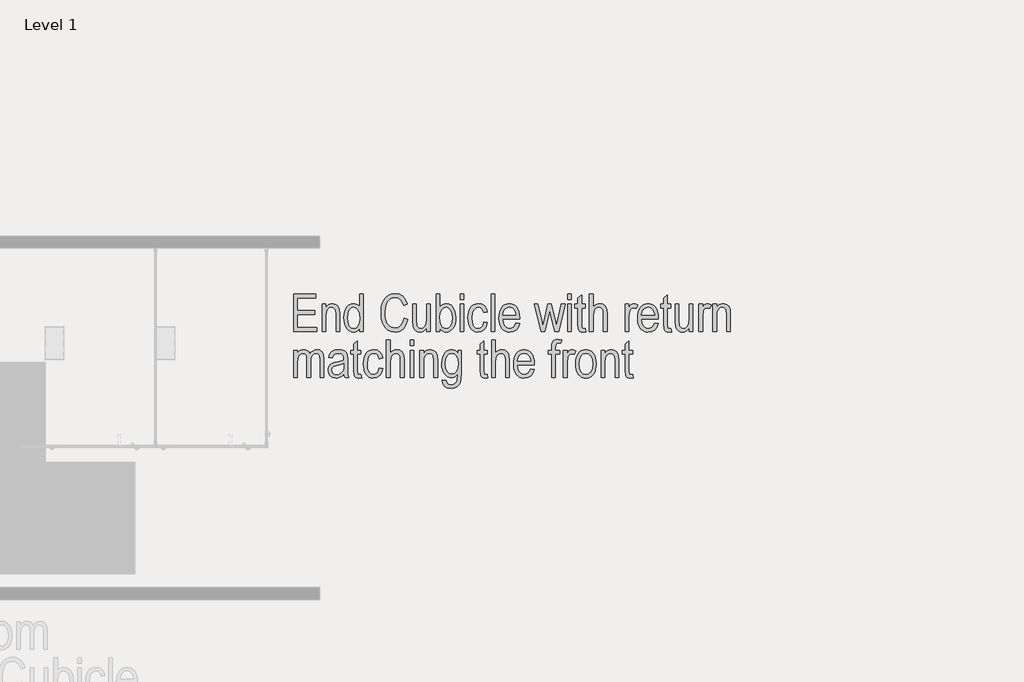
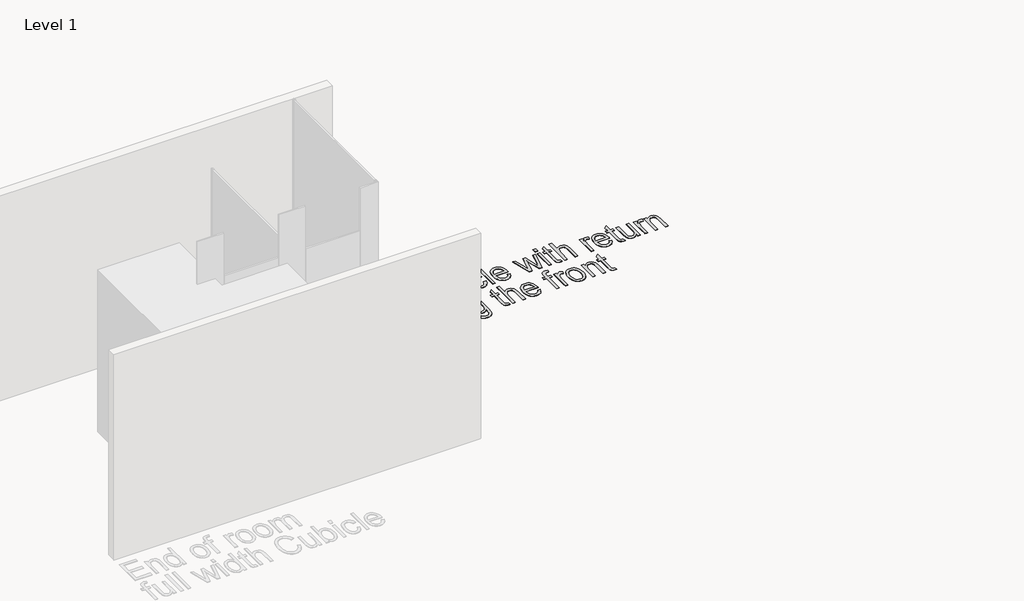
# One storey, part 17 of 21: 1 proxy.
"""IFC4 building model written with IfcOpenShell, lengths in millimetres."""

from ifc_helpers import new_model, si_unit, origin, origin_with_axes, place, context, project, spatial, polyline, outline, extrude, element, save

model = new_model("IFC4")

# Units and contexts
model_context = context("Model", 3, world=origin())
ifc_project = project(units=[si_unit("LENGTHUNIT", "METRE", prefix="MILLI")], contexts=[model_context])

# Site, building, storey
site = spatial("IfcSite", under=ifc_project)
building = spatial("IfcBuilding", under=site)
storey = spatial("IfcBuildingStorey", under=building, Name="Level 1", Elevation=0.0)

# Proxy
placement = place(None, origin())
element("IfcBuildingElementProxy", 1, Name="Arial Narrow-300mm", ObjectType="Arial Narrow-300mm", at=placement, inside=storey, context=model_context, shape_type="SweptSolid", body=[
    extrude(outline(polyline([(-10477.2012144, 24246.353021), (-10477.2012144, 24551.5303904), (-10295.0792359, 24551.5303904), (-10295.0792359, 24517.0748809), (-10447.6679206, 24517.0748809), (-10447.6679206, 24418.6305682), (-10304.9236672, 24418.6305682), (-10304.9236672, 24384.1750588), (-10447.6679206, 24384.1750588), (-10447.6679206, 24280.8085304), (-10290.1570203, 24280.8085304), (-10290.1570203, 24246.353021), (-10477.2012144, 24246.353021)])), origin_with_axes(), (0.0, 0.0, 1.0), 5.0),
    extrude(outline(polyline([(-10245.8570795, 24246.353021), (-10245.8570795, 24467.8527246), (-10216.3237857, 24467.8527246), (-10216.3237857, 24439.2423462), (-10205.8063953, 24453.9609246), (-10193.1739903, 24464.4302465), (-10178.484253, 24470.6887668), (-10161.7948656, 24472.7749402), (-10136.2993269, 24467.0451736), (-10117.3795605, 24452.0477978), (-10106.6506686, 24427.975087), (-10103.1128261, 24382.4830471), (-10103.1128261, 24246.353021), (-10132.6461199, 24246.353021), (-10132.6461199, 24383.0983241), (-10136.6838749, 24419.3227548), (-10141.8656605, 24429.4748245), (-10149.3355073, 24437.0119672), (-10158.6415713, 24441.6842266), (-10169.3320083, 24443.2416464), (-10188.6170954, 24439.0596858), (-10203.5567889, 24426.5138042), (-10213.1320365, 24403.8158528), (-10216.3237857, 24369.177683), (-10216.3237857, 24246.353021), (-10245.8570795, 24246.353021)])), origin_with_axes(), (0.0, 0.0, 1.0), 5.0),
    extrude(outline(polyline([(-9940.6797102, 24246.353021), (-9940.6797102, 24273.1175685), (-9950.1684344, 24259.4949522), (-9962.0221295, 24249.5447702), (-9975.5870636, 24243.4592966), (-9990.209505, 24241.4308054), (-10005.5962357, 24243.3271082), (-10019.9158454, 24249.0160166), (-10033.1683342, 24258.4975306), (-10045.353702, 24271.7716502), (-10055.5490334, 24288.4826684), (-10062.831413, 24308.2748782), (-10067.2008408, 24331.1482797), (-10068.6573167, 24357.1028728), (-10066.0231622, 24391.9333166), (-10058.1206988, 24421.0532212), (-10045.8247735, 24443.933833), (-10030.010233, 24460.0463982), (-10011.465401, 24469.5928047), (-9990.9786012, 24472.7749402), (-9976.1542721, 24470.8521997), (-9962.4451324, 24465.0839783), (-9950.4280044, 24455.8740514), (-9940.6797102, 24443.6261945), (-9940.6797102, 24551.5303904), (-9911.1464164, 24551.5303904), (-9911.1464164, 24246.353021), (-9940.6797102, 24246.353021)]), holes=[polyline([(-10039.1240229, 24356.8721439), (-10035.3842926, 24318.878792), (-10024.1651019, 24292.1142445), (-10007.9660134, 24276.2516355), (-9989.2865896, 24270.9640992), (-9970.9051906, 24276.040134), (-9955.1387186, 24291.2682387), (-9944.2944623, 24316.7637775), (-9940.6797102, 24352.6421149), (-9944.2944623, 24393.4811227), (-9955.1387186, 24421.5531338), (-9971.4820127, 24437.8195182), (-9991.5938781, 24443.2416464), (-10009.6964798, 24438.0310197), (-10025.0880173, 24422.3991396), (-10035.6150215, 24395.5961372), (-10039.1240229, 24356.8721439)])]), origin_with_axes(), (0.0, 0.0, 1.0), 5.0),
    extrude(outline(polyline([(-9581.3579688, 24354.641765), (-9551.824675, 24344.7973337), (-9566.6490041, 24299.334135), (-9577.1039055, 24281.5559958), (-9589.5872981, 24267.0801634), (-9603.8203845, 24255.8585693), (-9619.5243674, 24247.8431449), (-9636.6992467, 24243.0338902), (-9655.3450226, 24241.4308054), (-9686.8779665, 24245.6608344), (-9713.4886948, 24258.3509216), (-9735.4463911, 24280.3951412), (-9753.0202391, 24312.6875676), (-9764.556682, 24353.478507), (-9768.4021629, 24401.0182654), (-9764.5662957, 24447.4428343), (-9753.0586939, 24486.1187592), (-9735.0041608, 24516.6614917), (-9711.5274995, 24538.6864839), (-9683.8111954, 24552.0110755), (-9653.037734, 24556.452606), (-9620.1588717, 24550.8285901), (-9592.2791348, 24533.9565424), (-9570.7059865, 24506.1825561), (-9556.7468906, 24467.8527246), (-9586.2801844, 24458.0082933), (-9596.8648708, 24486.0033947), (-9611.6988136, 24505.9998957), (-9630.7820129, 24517.9977963), (-9654.1144687, 24521.9970966), (-9677.7930177, 24518.8053474), (-9698.0683161, 24509.2300998), (-9714.7769309, 24492.8964194), (-9727.7554291, 24469.4293718), (-9736.0905091, 24438.8097296), (-9738.8688691, 24401.0182654), (-9737.4556549, 24371.7060867), (-9733.2160121, 24346.2970713), (-9726.1499408, 24324.791219), (-9716.2574411, 24307.1885299), (-9704.0240047, 24293.4938108), (-9689.9351239, 24283.7118686), (-9673.9907984, 24277.8427032), (-9656.1910284, 24275.8863148), (-9630.3397826, 24280.7700756), (-9608.3147904, 24295.4213581), (-9591.5196523, 24319.9939815), (-9581.3579688, 24354.641765)])), origin_with_axes(), (0.0, 0.0, 1.0), 5.0),
    extrude(outline(polyline([(-9399.2359903, 24246.353021), (-9399.2359903, 24276.2708629), (-9410.1956111, 24261.052372), (-9422.9241531, 24250.1600471), (-9437.4216163, 24243.6131158), (-9453.6880008, 24241.4308054), (-9472.5116301, 24244.3245298), (-9488.3742391, 24253.0057031), (-9500.3721397, 24266.1187932), (-9507.6016439, 24282.308268), (-9512.4469499, 24330.6459637), (-9512.4469499, 24467.8527246), (-9482.9136561, 24467.8527246), (-9482.9136561, 24343.2591413), (-9479.5680877, 24296.8441861), (-9474.7900776, 24286.2787271), (-9467.1471842, 24278.0397841), (-9457.4373447, 24272.7330204), (-9446.4584966, 24270.9640992), (-9426.8465436, 24275.5594489), (-9411.0800717, 24289.3454982), (-9402.1970107, 24311.803107), (-9399.2359903, 24347.4891704), (-9399.2359903, 24467.8527246), (-9369.7026965, 24467.8527246), (-9369.7026965, 24246.353021), (-9399.2359903, 24246.353021)])), origin_with_axes(), (0.0, 0.0, 1.0), 5.0),
    extrude(outline(polyline([(-9290.9472463, 24246.353021), (-9320.4805402, 24246.353021), (-9320.4805402, 24551.5303904), (-9290.9472463, 24551.5303904), (-9290.9472463, 24444.2414714), (-9280.3817874, 24456.7969668), (-9268.5280923, 24465.6992552), (-9255.3092515, 24471.006019), (-9240.6483553, 24472.7749402), (-9220.1615555, 24469.5928047), (-9201.6167235, 24460.0463982), (-9185.8021831, 24444.0395837), (-9173.5062577, 24421.4762241), (-9165.6037943, 24392.8850732), (-9162.9696398, 24358.7948844), (-9164.433326, 24332.2562589), (-9168.8243846, 24308.9382237), (-9176.1428156, 24288.8407788), (-9186.3886189, 24271.9639242), (-9198.5860038, 24258.6056847), (-9211.7591796, 24249.0640851), (-9225.9081461, 24243.3391253), (-9241.0329034, 24241.4308054), (-9255.9918244, 24243.4112281), (-9269.3356433, 24249.3524961), (-9281.0066781, 24259.1969274), (-9290.9472463, 24272.8868396), (-9290.9472463, 24246.353021)]), holes=[polyline([(-9290.9472463, 24358.7948844), (-9289.3705992, 24328.2713792), (-9284.6406576, 24306.5347981), (-9277.0266053, 24291.2490113), (-9266.7976259, 24280.0778891), (-9254.6266786, 24273.2425466), (-9241.1867227, 24270.9640992), (-9223.180258, 24276.3862273), (-9207.3080354, 24292.6526118), (-9196.2042091, 24319.7247978), (-9192.5029336, 24357.5643305), (-9196.0696172, 24395.9133894), (-9206.769668, 24422.514504), (-9222.6611181, 24438.0598608), (-9241.8019996, 24443.2416464), (-9259.914215, 24437.8195182), (-9275.9498706, 24421.5531338), (-9287.1979024, 24395.0193151), (-9290.9472463, 24358.7948844)])]), origin_with_axes(), (0.0, 0.0, 1.0), 5.0),
    extrude(outline(polyline([(-9128.5141304, 24246.353021), (-9128.5141304, 24467.8527246), (-9098.9808366, 24467.8527246), (-9098.9808366, 24246.353021), (-9128.5141304, 24246.353021)])), origin_with_axes(), (0.0, 0.0, 1.0), 5.0),
    extrude(outline(polyline([(-9128.5141304, 24507.2304496), (-9128.5141304, 24551.5303904), (-9098.9808366, 24551.5303904), (-9098.9808366, 24507.2304496), (-9128.5141304, 24507.2304496)])), origin_with_axes(), (0.0, 0.0, 1.0), 5.0),
    extrude(outline(polyline([(-8936.5477206, 24325.1084712), (-8907.0144268, 24320.1862555), (-8916.0993756, 24286.3556367), (-8933.0483329, 24261.6195804), (-8956.015468, 24246.4779991), (-8983.1549499, 24241.4308054), (-9000.1327484, 24243.2598122), (-9015.5338996, 24248.7468329), (-9029.3584037, 24257.8918673), (-9041.6062606, 24270.6949155), (-9051.6333522, 24287.0838747), (-9058.7955605, 24306.9866421), (-9063.0928855, 24330.4032178), (-9064.5253271, 24357.3336016), (-9063.0496238, 24384.3745431), (-9058.6225139, 24407.815153), (-9051.2439973, 24427.6554314), (-9040.914074, 24443.8953782), (-9028.2672485, 24456.5301866), (-9013.938025, 24465.5550497), (-8997.9264037, 24470.9699676), (-8980.2323844, 24472.7749402), (-8953.9389083, 24468.4680015), (-8932.1254175, 24455.5471855), (-8916.0609208, 24434.0124921), (-8907.0144268, 24403.8639213), (-8936.5477206, 24398.9417057), (-8942.8543094, 24418.3709983), (-8952.5449214, 24432.205116), (-8965.061962, 24440.4825138), (-8979.8478363, 24443.2416464), (-9001.6420997, 24438.1367704), (-9019.3409258, 24422.8221425), (-9031.0792564, 24396.3940745), (-9034.9920333, 24357.9488786), (-9031.3484401, 24318.3788795), (-9020.4176605, 24291.4989675), (-9003.795569, 24276.0978163), (-8983.0780403, 24270.9640992), (-8966.5328584, 24274.2615991), (-8952.5833762, 24284.1540989), (-8942.2486462, 24300.9876918), (-8936.5477206, 24325.1084712)])), origin_with_axes(), (0.0, 0.0, 1.0), 5.0),
    extrude(outline(polyline([(-8877.481133, 24246.353021), (-8877.481133, 24551.5303904), (-8847.9478392, 24551.5303904), (-8847.9478392, 24246.353021), (-8877.481133, 24246.353021)])), origin_with_axes(), (0.0, 0.0, 1.0), 5.0),
    extrude(outline(polyline([(-8675.670292, 24315.2640399), (-8646.1369982, 24310.3418242), (-8657.3465752, 24280.3855275), (-8674.9781054, 24258.8123793), (-8698.3201749, 24245.7761988), (-8726.6613696, 24241.4308054), (-8745.1533262, 24243.2598122), (-8761.7898382, 24248.7468329), (-8776.5709056, 24257.8918673), (-8789.4965285, 24270.6949155), (-8799.9946916, 24286.9540897), (-8807.4933794, 24306.4675022), (-8811.9925922, 24329.2351529), (-8813.4923297, 24355.2570419), (-8811.9853819, 24382.2066532), (-8807.4645383, 24405.7578207), (-8799.9297991, 24425.9105444), (-8789.3811641, 24442.6648242), (-8776.5252405, 24455.838), (-8762.0686355, 24465.2474112), (-8746.0113491, 24470.893058), (-8728.3533812, 24472.7749402), (-8711.4356684, 24470.9579504), (-8695.9840452, 24465.5069812), (-8681.9985116, 24456.4220324), (-8669.4790676, 24443.7031041), (-8659.1659684, 24427.5424704), (-8651.7994689, 24408.1324052), (-8647.3795692, 24385.4729086), (-8645.9062693, 24359.5639806), (-8646.1369982, 24349.7195493), (-8783.9590359, 24349.7195493), (-8778.4119296, 24315.4563139), (-8765.769911, 24290.8067809), (-8747.8019012, 24275.9247696), (-8726.2768215, 24270.9640992), (-8709.4720696, 24273.7328455), (-8695.4360641, 24282.0390843), (-8684.1688049, 24295.8828158), (-8675.670292, 24315.2640399)]), holes=[polyline([(-8781.9593858, 24379.2528431), (-8675.670292, 24379.2528431), (-8679.9772306, 24404.5176531), (-8688.591108, 24422.4760492), (-8706.2418656, 24438.0502471), (-8728.1226523, 24443.2416464), (-8748.2152904, 24438.9154803), (-8765.1161792, 24425.9369821), (-8776.979488, 24405.6136152), (-8781.9593858, 24379.2528431)])]), origin_with_axes(), (0.0, 0.0, 1.0), 5.0),
    extrude(outline(polyline([(-8471.5521624, 24246.353021), (-8528.0038229, 24467.8527246), (-8497.7783425, 24467.8527246), (-8467.7066814, 24338.7214738), (-8456.6316962, 24290.6529617), (-8446.6334457, 24336.7987333), (-8416.7156038, 24467.8527246), (-8388.0283158, 24467.8527246), (-8358.3412027, 24338.2600161), (-8348.3429522, 24295.5751773), (-8338.0370633, 24338.7214738), (-8307.1963059, 24467.8527246), (-8276.9708255, 24467.8527246), (-8329.8846436, 24246.353021), (-8362.8019607, 24246.353021), (-8394.8732719, 24380.483397), (-8402.4873242, 24418.6305682), (-8441.326682, 24246.353021), (-8471.5521624, 24246.353021)])), origin_with_axes(), (0.0, 0.0, 1.0), 5.0),
    extrude(outline(polyline([(-8257.281963, 24507.2304496), (-8257.281963, 24551.5303904), (-8227.7486692, 24551.5303904), (-8227.7486692, 24507.2304496), (-8257.281963, 24507.2304496)])), origin_with_axes(), (0.0, 0.0, 1.0), 5.0),
    extrude(outline(polyline([(-8257.281963, 24246.353021), (-8257.281963, 24467.8527246), (-8227.7486692, 24467.8527246), (-8227.7486692, 24246.353021), (-8257.281963, 24246.353021)])), origin_with_axes(), (0.0, 0.0, 1.0), 5.0),
    extrude(outline(polyline([(-8114.5377096, 24270.9640992), (-8109.6154939, 24241.4308054), (-8131.9192835, 24241.4308054), (-8145.9552891, 24243.0362937), (-8156.9918194, 24247.8527586), (-8165.0288746, 24255.4571972), (-8170.0664547, 24265.4266066), (-8173.6042972, 24309.8034569), (-8173.6042972, 24438.3194308), (-8198.2153754, 24438.3194308), (-8198.2153754, 24467.8527246), (-8173.6042972, 24467.8527246), (-8173.6042972, 24517.0748809), (-8144.0710034, 24541.6859591), (-8144.0710034, 24467.8527246), (-8114.5377096, 24467.8527246), (-8114.5377096, 24438.3194308), (-8144.0710034, 24438.3194308), (-8144.0710034, 24303.0354104), (-8141.4560763, 24278.8088803), (-8136.1108578, 24272.9252945), (-8127.4585256, 24270.9640992), (-8114.5377096, 24270.9640992)])), origin_with_axes(), (0.0, 0.0, 1.0), 5.0),
    extrude(outline(polyline([(-8080.0822001, 24246.353021), (-8080.0822001, 24551.5303904), (-8050.5489063, 24551.5303904), (-8050.5489063, 24445.1643869), (-8039.4066252, 24457.2680382), (-8026.8991984, 24465.8915293), (-8013.0266258, 24471.0540875), (-7997.7889075, 24472.7749402), (-7972.735599, 24468.160363), (-7953.5658764, 24454.3166316), (-7946.4661572, 24443.1647368), (-7941.3949291, 24428.167361), (-7937.3379467, 24386.6361666), (-7937.3379467, 24246.353021), (-7966.8712405, 24246.353021), (-7966.8712405, 24388.7127263), (-7969.341962, 24413.7468074), (-7976.7541266, 24430.5515592), (-7988.4924572, 24440.0691246), (-8003.941677, 24443.2416464), (-8021.8808457, 24439.1750503), (-8036.9359037, 24426.9752619), (-8047.1456557, 24404.4119024), (-8050.5489063, 24369.2545926), (-8050.5489063, 24246.353021), (-8080.0822001, 24246.353021)])), origin_with_axes(), (0.0, 0.0, 1.0), 5.0),
    extrude(outline(polyline([(-7789.6714777, 24246.353021), (-7789.6714777, 24467.8527246), (-7760.1381839, 24467.8527246), (-7760.1381839, 24438.47325), (-7750.2552978, 24455.7394595), (-7741.2184175, 24466.0068937), (-7732.0661728, 24471.0829286), (-7721.8371934, 24472.7749402), (-7706.6859984, 24470.3138324), (-7691.227165, 24462.9305089), (-7701.0715962, 24433.3972151), (-7723.9906628, 24438.3194308), (-7733.6332063, 24436.5601232), (-7742.4105166, 24431.2822006), (-7749.5150427, 24422.8509836), (-7754.1392335, 24411.6317929), (-7760.1381839, 24364.9476539), (-7760.1381839, 24246.353021), (-7789.6714777, 24246.353021)])), origin_with_axes(), (0.0, 0.0, 1.0), 5.0),
    extrude(outline(polyline([(-7553.4051272, 24315.2640399), (-7523.8718334, 24310.3418242), (-7535.0814104, 24280.3855275), (-7552.7129406, 24258.8123793), (-7576.0550101, 24245.7761988), (-7604.3962048, 24241.4308054), (-7622.8881614, 24243.2598122), (-7639.5246734, 24248.7468329), (-7654.3057409, 24257.8918673), (-7667.2313637, 24270.6949155), (-7677.7295268, 24286.9540897), (-7685.2282147, 24306.4675022), (-7689.7274274, 24329.2351529), (-7691.227165, 24355.2570419), (-7689.7202171, 24382.2066532), (-7685.1993736, 24405.7578207), (-7677.6646343, 24425.9105444), (-7667.1159993, 24442.6648242), (-7654.2600758, 24455.838), (-7639.8034708, 24465.2474112), (-7623.7461843, 24470.893058), (-7606.0882164, 24472.7749402), (-7589.1705036, 24470.9579504), (-7573.7188804, 24465.5069812), (-7559.7333468, 24456.4220324), (-7547.2139028, 24443.7031041), (-7536.9008036, 24427.5424704), (-7529.5343041, 24408.1324052), (-7525.1144044, 24385.4729086), (-7523.6411045, 24359.5639806), (-7523.8718334, 24349.7195493), (-7661.6938712, 24349.7195493), (-7656.1467649, 24315.4563139), (-7643.5047462, 24290.8067809), (-7625.5367364, 24275.9247696), (-7604.0116567, 24270.9640992), (-7587.2069049, 24273.7328455), (-7573.1708993, 24282.0390843), (-7561.9036401, 24295.8828158), (-7553.4051272, 24315.2640399)]), holes=[polyline([(-7659.6942211, 24379.2528431), (-7553.4051272, 24379.2528431), (-7557.7120659, 24404.5176531), (-7566.3259432, 24422.4760492), (-7583.9767009, 24438.0502471), (-7605.8574875, 24443.2416464), (-7625.9501256, 24438.9154803), (-7642.8510144, 24425.9369821), (-7654.7143232, 24405.6136152), (-7659.6942211, 24379.2528431)])]), origin_with_axes(), (0.0, 0.0, 1.0), 5.0),
    extrude(outline(polyline([(-7420.505305, 24270.9640992), (-7415.5830894, 24241.4308054), (-7437.886879, 24241.4308054), (-7451.9228845, 24243.0362937), (-7462.9594149, 24247.8527586), (-7470.9964701, 24255.4571972), (-7476.0340502, 24265.4266066), (-7479.5718927, 24309.8034569), (-7479.5718927, 24438.3194308), (-7504.1829708, 24438.3194308), (-7504.1829708, 24467.8527246), (-7479.5718927, 24467.8527246), (-7479.5718927, 24517.0748809), (-7450.0385988, 24541.6859591), (-7450.0385988, 24467.8527246), (-7420.505305, 24467.8527246), (-7420.505305, 24438.3194308), (-7450.0385988, 24438.3194308), (-7450.0385988, 24303.0354104), (-7447.4236718, 24278.8088803), (-7442.0784533, 24272.9252945), (-7433.4261211, 24270.9640992), (-7420.505305, 24270.9640992)])), origin_with_axes(), (0.0, 0.0, 1.0), 5.0),
    extrude(outline(polyline([(-7272.838836, 24246.353021), (-7272.838836, 24276.2708629), (-7283.7984567, 24261.052372), (-7296.5269987, 24250.1600471), (-7311.024462, 24243.6131158), (-7327.2908464, 24241.4308054), (-7346.1144758, 24244.3245298), (-7361.9770848, 24253.0057031), (-7373.9749854, 24266.1187932), (-7381.2044896, 24282.308268), (-7386.0497956, 24330.6459637), (-7386.0497956, 24467.8527246), (-7356.5165018, 24467.8527246), (-7356.5165018, 24343.2591413), (-7353.1709333, 24296.8441861), (-7348.3929232, 24286.2787271), (-7340.7500298, 24278.0397841), (-7331.0401904, 24272.7330204), (-7320.0613422, 24270.9640992), (-7300.4493893, 24275.5594489), (-7284.6829174, 24289.3454982), (-7275.7998563, 24311.803107), (-7272.838836, 24347.4891704), (-7272.838836, 24467.8527246), (-7243.3055422, 24467.8527246), (-7243.3055422, 24246.353021), (-7272.838836, 24246.353021)])), origin_with_axes(), (0.0, 0.0, 1.0), 5.0),
    extrude(outline(polyline([(-7194.0833858, 24246.353021), (-7194.0833858, 24467.8527246), (-7164.550092, 24467.8527246), (-7164.550092, 24438.47325), (-7154.6672059, 24455.7394595), (-7145.6303257, 24466.0068937), (-7136.478081, 24471.0829286), (-7126.2491016, 24472.7749402), (-7111.0979066, 24470.3138324), (-7095.6390731, 24462.9305089), (-7105.4835044, 24433.3972151), (-7128.4025709, 24438.3194308), (-7138.0451145, 24436.5601232), (-7146.8224248, 24431.2822006), (-7153.9269509, 24422.8509836), (-7158.5511417, 24411.6317929), (-7164.550092, 24364.9476539), (-7164.550092, 24246.353021), (-7194.0833858, 24246.353021)])), origin_with_axes(), (0.0, 0.0, 1.0), 5.0),
    extrude(outline(polyline([(-7080.8724262, 24246.353021), (-7080.8724262, 24467.8527246), (-7051.3391324, 24467.8527246), (-7051.3391324, 24439.2423462), (-7040.821742, 24453.9609246), (-7028.189337, 24464.4302465), (-7013.4995997, 24470.6887668), (-6996.8102123, 24472.7749402), (-6971.3146735, 24467.0451736), (-6952.3949072, 24452.0477978), (-6941.6660153, 24427.975087), (-6938.1281728, 24382.4830471), (-6938.1281728, 24246.353021), (-6967.6614666, 24246.353021), (-6967.6614666, 24383.0983241), (-6971.6992216, 24419.3227548), (-6976.8810072, 24429.4748245), (-6984.350854, 24437.0119672), (-6993.6569179, 24441.6842266), (-7004.347355, 24443.2416464), (-7023.6324421, 24439.0596858), (-7038.5721356, 24426.5138042), (-7048.1473832, 24403.8158528), (-7051.3391324, 24369.177683), (-7051.3391324, 24246.353021), (-7080.8724262, 24246.353021)])), origin_with_axes(), (0.0, 0.0, 1.0), 5.0),
    extrude(outline(polyline([(-10477.2012144, 23873.2508086), (-10477.2012144, 24094.7505122), (-10447.6679206, 24094.7505122), (-10447.6679206, 24066.5246819), (-10437.4677823, 24080.6183696), (-10424.7103992, 24091.0588504), (-10410.0110482, 24097.5192585), (-10393.9850063, 24099.6727278), (-10376.7380242, 24097.3750529), (-10362.3751528, 24090.4820283), (-10351.319395, 24079.2051554), (-10343.9937538, 24063.7559356), (-10332.2650368, 24079.4935664), (-10318.9212179, 24090.7127572), (-10304.0007517, 24097.4327351), (-10287.5420932, 24099.6727278), (-10264.094273, 24095.240811), (-10246.2031728, 24081.9450606), (-10234.8686177, 24058.9010159), (-10231.0904326, 24025.2242163), (-10231.0904326, 23873.2508086), (-10260.6237264, 23873.2508086), (-10260.6237264, 24014.9183273), (-10264.1615689, 24049.0661983), (-10275.6211022, 24064.6403962), (-10293.3872243, 24070.139434), (-10311.8263055, 24066.1401338), (-10326.5352702, 24054.1422332), (-10336.1682, 24033.56891), (-10339.3791766, 24003.8433422), (-10339.3791766, 23873.2508086), (-10368.9124704, 23873.2508086), (-10368.9124704, 24019.3021756), (-10371.0659398, 24043.1537713), (-10377.5263478, 24058.7183555), (-10387.7745545, 24067.2841644), (-10401.2914201, 24070.139434), (-10420.4995976, 24065.8228816), (-10435.2085622, 24052.8732245), (-10444.553081, 24028.5024888), (-10447.6679206, 23989.9227011), (-10447.6679206, 23873.2508086), (-10477.2012144, 23873.2508086)])), origin_with_axes(), (0.0, 0.0, 1.0), 5.0),
    extrude(outline(polyline([(-10068.6573167, 23900.7844523), (-10084.2795831, 23886.6330823), (-10100.5363539, 23876.4810126), (-10117.427629, 23870.3666979), (-10134.9534085, 23868.328593), (-10160.2566733, 23872.6163042), (-10179.8686262, 23885.4794381), (-10192.4433489, 23905.5913035), (-10196.6349232, 23931.6252096), (-10194.6256594, 23949.7566524), (-10188.597868, 23965.696171), (-10179.0899163, 23978.9150118), (-10166.6401717, 23988.8844212), (-10149.1240059, 23996.1427665), (-10124.4167907, 24001.2284151), (-10091.4802462, 24008.0349164), (-10068.6573167, 24015.995062), (-10068.6573167, 24025.4549452), (-10070.7531038, 24044.5669856), (-10077.0404652, 24056.9878891), (-10091.9609313, 24066.8515478), (-10113.1879863, 24070.139434), (-10132.4153911, 24068.072488), (-10146.1053033, 24061.8716499), (-10155.5844139, 24049.9602726), (-10162.1794137, 24030.7617089), (-10191.7127076, 24035.6839245), (-10181.9259585, 24064.5923277), (-10165.4865274, 24084.4061684), (-10141.4714987, 24095.8560879), (-10108.9579572, 24099.6727278), (-10083.3662814, 24096.9905048), (-10063.9658299, 24088.9438359), (-10050.6700795, 24076.9363216), (-10043.3925067, 24062.3715624), (-10039.1240229, 24016.0719716), (-10039.1240229, 23966.0038095), (-10037.1243728, 23899.8230821), (-10029.2795916, 23873.2508086), (-10058.8128854, 23873.2508086), (-10065.0425646, 23885.902441), (-10068.6573167, 23900.7844523)]), holes=[polyline([(-10068.6573167, 23986.4617682), (-10090.7496048, 23978.424713), (-10121.4942251, 23971.6951213), (-10149.9892391, 23963.9657046), (-10162.6024167, 23951.6601655), (-10167.1016294, 23933.3172213), (-10164.5251571, 23918.7909169), (-10156.7957404, 23907.514044), (-10144.5094287, 23900.2749261), (-10128.2622716, 23897.8618868), (-10111.7459309, 23900.0441972), (-10096.8062373, 23906.5911286), (-10084.443016, 23916.7816531), (-10075.656092, 23929.8947432), (-10070.4070105, 23947.8050708), (-10068.6573167, 23972.3873079), (-10068.6573167, 23986.4617682)])]), origin_with_axes(), (0.0, 0.0, 1.0), 5.0),
    extrude(outline(polyline([(-9930.8352789, 23897.8618868), (-9925.9130633, 23868.328593), (-9948.2168529, 23868.328593), (-9962.2528584, 23869.9340813), (-9973.2893888, 23874.7505462), (-9981.326444, 23882.3549848), (-9986.364024, 23892.3243942), (-9989.9018665, 23936.7012445), (-9989.9018665, 24065.2172184), (-10014.5129447, 24065.2172184), (-10014.5129447, 24094.7505122), (-9989.9018665, 24094.7505122), (-9989.9018665, 24143.9726685), (-9960.3685727, 24168.5837467), (-9960.3685727, 24094.7505122), (-9930.8352789, 24094.7505122), (-9930.8352789, 24065.2172184), (-9960.3685727, 24065.2172184), (-9960.3685727, 23929.933198), (-9957.7536457, 23905.7066679), (-9952.4084271, 23899.8230821), (-9943.7560949, 23897.8618868), (-9930.8352789, 23897.8618868)])), origin_with_axes(), (0.0, 0.0, 1.0), 5.0),
    extrude(outline(polyline([(-9783.1688098, 23952.0062588), (-9753.635516, 23947.0840431), (-9762.7204648, 23913.2534243), (-9779.6694222, 23888.517368), (-9802.6365572, 23873.3757867), (-9829.7760391, 23868.328593), (-9846.7538376, 23870.1575998), (-9862.1549889, 23875.6446205), (-9875.9794929, 23884.7896549), (-9888.2273498, 23897.5927031), (-9898.2544414, 23913.9816623), (-9905.4166497, 23933.8844297), (-9909.7139747, 23957.3010054), (-9911.1464164, 23984.2313892), (-9909.670713, 24011.2723307), (-9905.2436031, 24034.7129406), (-9897.8650865, 24054.553219), (-9887.5351632, 24070.7931658), (-9874.8883377, 24083.4279742), (-9860.5591143, 24092.4528373), (-9844.5474929, 24097.8677552), (-9826.8534736, 24099.6727278), (-9800.5599975, 24095.3657891), (-9778.7465067, 24082.4449731), (-9762.68201, 24060.9102797), (-9753.635516, 24030.7617089), (-9783.1688098, 24025.8394933), (-9789.4753986, 24045.2687859), (-9799.1660107, 24059.1029036), (-9811.6830512, 24067.3803014), (-9826.4689255, 24070.139434), (-9848.2631889, 24065.034558), (-9865.962015, 24049.7199301), (-9877.7003457, 24023.2918621), (-9881.6131225, 23984.8466662), (-9877.9695293, 23945.2766671), (-9867.0387497, 23918.3967551), (-9850.4166582, 23902.9956039), (-9829.6991295, 23897.8618868), (-9813.1539477, 23901.1593867), (-9799.2044655, 23911.0518865), (-9788.8697354, 23927.8854794), (-9783.1688098, 23952.0062588)])), origin_with_axes(), (0.0, 0.0, 1.0), 5.0),
    extrude(outline(polyline([(-9724.1022222, 23873.2508086), (-9724.1022222, 24178.428178), (-9694.5689284, 24178.428178), (-9694.5689284, 24072.0621745), (-9683.4266473, 24084.1658258), (-9670.9192205, 24092.7893169), (-9657.0466479, 24097.9518751), (-9641.8089296, 24099.6727278), (-9616.7556211, 24095.0581506), (-9597.5858985, 24081.2144192), (-9590.4861793, 24070.0625244), (-9585.4149512, 24055.0651486), (-9581.3579688, 24013.5339542), (-9581.3579688, 23873.2508086), (-9610.8912626, 23873.2508086), (-9610.8912626, 24015.6105139), (-9613.3619841, 24040.644595), (-9620.7741487, 24057.4493468), (-9632.5124793, 24066.9669122), (-9647.9616991, 24070.139434), (-9665.9008678, 24066.0728379), (-9680.9559258, 24053.8730495), (-9691.1656778, 24031.3096899), (-9694.5689284, 23996.1523802), (-9694.5689284, 23873.2508086), (-9724.1022222, 23873.2508086)])), origin_with_axes(), (0.0, 0.0, 1.0), 5.0),
    extrude(outline(polyline([(-9532.1358125, 24134.1282372), (-9532.1358125, 24178.428178), (-9502.6025187, 24178.428178), (-9502.6025187, 24134.1282372), (-9532.1358125, 24134.1282372)])), origin_with_axes(), (0.0, 0.0, 1.0), 5.0),
    extrude(outline(polyline([(-9532.1358125, 23873.2508086), (-9532.1358125, 24094.7505122), (-9502.6025187, 24094.7505122), (-9502.6025187, 23873.2508086), (-9532.1358125, 23873.2508086)])), origin_with_axes(), (0.0, 0.0, 1.0), 5.0),
    extrude(outline(polyline([(-9453.3803623, 23873.2508086), (-9453.3803623, 24094.7505122), (-9423.8470685, 24094.7505122), (-9423.8470685, 24066.1401338), (-9413.3296781, 24080.8587122), (-9400.6972731, 24091.3280341), (-9386.0075358, 24097.5865544), (-9369.3181484, 24099.6727278), (-9343.8226096, 24093.9429612), (-9324.9028433, 24078.9455854), (-9314.1739514, 24054.8728746), (-9310.6361089, 24009.3808347), (-9310.6361089, 23873.2508086), (-9340.1694027, 23873.2508086), (-9340.1694027, 24009.9961117), (-9344.2071577, 24046.2205424), (-9349.3889433, 24056.3726121), (-9356.8587901, 24063.9097548), (-9366.164854, 24068.5820142), (-9376.8552911, 24070.139434), (-9396.1403781, 24065.9574734), (-9411.0800717, 24053.4115918), (-9420.6553193, 24030.7136404), (-9423.8470685, 23996.0754706), (-9423.8470685, 23873.2508086), (-9453.3803623, 23873.2508086)])), origin_with_axes(), (0.0, 0.0, 1.0), 5.0),
    extrude(outline(polyline([(-9271.2583838, 23853.5619461), (-9241.72509, 23848.6397304), (-9237.5335157, 23833.4212395), (-9229.1119124, 23822.6827339), (-9216.5371897, 23816.3088492), (-9199.8862571, 23814.184221), (-9181.5817677, 23816.5780329), (-9167.4303978, 23823.7594686), (-9157.278328, 23835.6708459), (-9150.9717392, 23852.2544825), (-9148.2029929, 23900.7844523), (-9158.7492245, 23888.7865517), (-9170.5452373, 23880.1726743), (-9183.6487137, 23874.981275), (-9198.1173359, 23873.2508086), (-9213.5809762, 23874.9716613), (-9227.6698571, 23880.1342195), (-9240.3839785, 23888.7384832), (-9251.7233405, 23900.7844523), (-9262.4233913, 23917.9689454), (-9270.0662847, 23937.8356614), (-9274.6520208, 23960.3846004), (-9276.1805994, 23985.6157624), (-9273.4406943, 24019.0522194), (-9265.2209787, 24047.9894636), (-9252.5501189, 24071.1296453), (-9236.4567811, 24087.1749147), (-9217.5850832, 24096.5482745), (-9196.5791435, 24099.6727278), (-9181.0626278, 24097.7884421), (-9166.96894, 24092.1355851), (-9154.3557625, 24082.7141567), (-9143.2807773, 24069.524157), (-9143.2807773, 24094.7505122), (-9118.6696991, 24094.7505122), (-9118.6696991, 23904.0915659), (-9120.7366451, 23860.4838118), (-9126.9374832, 23831.4888853), (-9137.8394217, 23812.0788201), (-9154.0096692, 23797.2256499), (-9174.7271979, 23787.7946078), (-9199.2709801, 23784.6509272), (-9230.2174882, 23789.2174358), (-9253.0692588, 23802.9169617), (-9267.018741, 23824.7112251), (-9271.2583838, 23853.5619461)]), holes=[polyline([(-9246.6473056, 23987.923051), (-9242.9171891, 23949.5451509), (-9231.7268395, 23923.1651515), (-9215.1335891, 23907.8793647), (-9195.1947703, 23902.7841024), (-9175.1982693, 23907.773614), (-9158.4319723, 23922.7421486), (-9147.068576, 23948.5933944), (-9143.2807773, 23986.2310393), (-9147.1743268, 24023.3014758), (-9158.8549752, 24049.4507464), (-9176.0923436, 24064.9672621), (-9196.6560531, 24070.139434), (-9215.3547043, 24064.9672621), (-9231.6114751, 24049.4507464), (-9242.888348, 24023.7244787), (-9246.6473056, 23987.923051)])]), origin_with_axes(), (0.0, 0.0, 1.0), 5.0),
    extrude(outline(polyline([(-8907.0144268, 23897.8618868), (-8902.0922112, 23868.328593), (-8924.3960008, 23868.328593), (-8938.4320063, 23869.9340813), (-8949.4685367, 23874.7505462), (-8957.5055919, 23882.3549848), (-8962.5431719, 23892.3243942), (-8966.0810144, 23936.7012445), (-8966.0810144, 24065.2172184), (-8990.6920926, 24065.2172184), (-8990.6920926, 24094.7505122), (-8966.0810144, 24094.7505122), (-8966.0810144, 24143.9726685), (-8936.5477206, 24168.5837467), (-8936.5477206, 24094.7505122), (-8907.0144268, 24094.7505122), (-8907.0144268, 24065.2172184), (-8936.5477206, 24065.2172184), (-8936.5477206, 23929.933198), (-8933.9327936, 23905.7066679), (-8928.587575, 23899.8230821), (-8919.9352429, 23897.8618868), (-8907.0144268, 23897.8618868)])), origin_with_axes(), (0.0, 0.0, 1.0), 5.0),
    extrude(outline(polyline([(-8872.5589174, 23873.2508086), (-8872.5589174, 24178.428178), (-8843.0256236, 24178.428178), (-8843.0256236, 24072.0621745), (-8831.8833425, 24084.1658258), (-8819.3759156, 24092.7893169), (-8805.503343, 24097.9518751), (-8790.2656247, 24099.6727278), (-8765.2123162, 24095.0581506), (-8746.0425936, 24081.2144192), (-8738.9428744, 24070.0625244), (-8733.8716464, 24055.0651486), (-8729.814664, 24013.5339542), (-8729.814664, 23873.2508086), (-8759.3479578, 23873.2508086), (-8759.3479578, 24015.6105139), (-8761.8186793, 24040.644595), (-8769.2308438, 24057.4493468), (-8780.9691745, 24066.9669122), (-8796.4183943, 24070.139434), (-8814.357563, 24066.0728379), (-8829.4126209, 24053.8730495), (-8839.6223729, 24031.3096899), (-8843.0256236, 23996.1523802), (-8843.0256236, 23873.2508086), (-8872.5589174, 23873.2508086)])), origin_with_axes(), (0.0, 0.0, 1.0), 5.0),
    extrude(outline(polyline([(-8557.5371167, 23942.1618275), (-8528.0038229, 23937.2396118), (-8539.2133999, 23907.2833151), (-8556.8449302, 23885.7101669), (-8580.1869996, 23872.6739864), (-8608.5281943, 23868.328593), (-8627.0201509, 23870.1575998), (-8643.6566629, 23875.6446205), (-8658.4377304, 23884.7896549), (-8671.3633533, 23897.5927031), (-8681.8615163, 23913.8518773), (-8689.3602042, 23933.3652898), (-8693.8594169, 23956.1329405), (-8695.3591545, 23982.1548295), (-8693.8522067, 24009.1044408), (-8689.3313631, 24032.6556083), (-8681.7966238, 24052.808332), (-8671.2479889, 24069.5626118), (-8658.3920653, 24082.7357876), (-8643.9354603, 24092.1451988), (-8627.8781739, 24097.7908456), (-8610.2202059, 24099.6727278), (-8593.3024931, 24097.855738), (-8577.8508699, 24092.4047688), (-8563.8653363, 24083.31982), (-8551.3458924, 24070.6008917), (-8541.0327931, 24054.440258), (-8533.6662936, 24035.0301928), (-8529.246394, 24012.3706962), (-8527.7730941, 23986.4617682), (-8528.0038229, 23976.6173369), (-8665.8258607, 23976.6173369), (-8660.2787544, 23942.3541015), (-8647.6367357, 23917.7045685), (-8629.6687259, 23902.8225572), (-8608.1436462, 23897.8618868), (-8591.3388944, 23900.6306331), (-8577.3028889, 23908.9368719), (-8566.0356297, 23922.7806034), (-8557.5371167, 23942.1618275)]), holes=[polyline([(-8663.8262106, 24006.1506307), (-8557.5371167, 24006.1506307), (-8561.8440554, 24031.4154407), (-8570.4579328, 24049.3738368), (-8588.1086904, 24064.9480347), (-8609.9894771, 24070.139434), (-8630.0821151, 24065.8132679), (-8646.983004, 24052.8347696), (-8658.8463127, 24032.5114028), (-8663.8262106, 24006.1506307)])]), origin_with_axes(), (0.0, 0.0, 1.0), 5.0),
    extrude(outline(polyline([(-8385.2595695, 23873.2508086), (-8385.2595695, 24065.2172184), (-8414.7928633, 24065.2172184), (-8414.7928633, 24094.7505122), (-8385.2595695, 24094.7505122), (-8385.2595695, 24118.0541268), (-8383.9040375, 24140.6655549), (-8379.8374413, 24156.8165749), (-8372.9828715, 24168.2088123), (-8363.2634184, 24176.5438923), (-8350.6886956, 24181.6487683), (-8335.268317, 24183.3503936), (-8306.5041193, 24178.428178), (-8311.7339735, 24153.8170998), (-8329.9615532, 24153.8170998), (-8341.8344757, 24151.8847456), (-8349.7657802, 24146.087683), (-8354.2361518, 24134.8684923), (-8355.7262757, 24116.6697537), (-8355.7262757, 24094.7505122), (-8321.2707662, 24094.7505122), (-8321.2707662, 24065.2172184), (-8355.7262757, 24065.2172184), (-8355.7262757, 23873.2508086), (-8385.2595695, 23873.2508086)])), origin_with_axes(), (0.0, 0.0, 1.0), 5.0),
    extrude(outline(polyline([(-8291.7374724, 23873.2508086), (-8291.7374724, 24094.7505122), (-8262.2041786, 24094.7505122), (-8262.2041786, 24065.3710376), (-8252.3212925, 24082.6372471), (-8243.2844123, 24092.9046813), (-8234.1321676, 24097.9807162), (-8223.9031882, 24099.6727278), (-8208.7519932, 24097.21162), (-8193.2931597, 24089.8282965), (-8203.137591, 24060.2950027), (-8226.0566576, 24065.2172184), (-8235.6992011, 24063.4579108), (-8244.4765114, 24058.1799882), (-8251.5810375, 24049.7487712), (-8256.2052283, 24038.5295805), (-8262.2041786, 23991.8454415), (-8262.2041786, 23873.2508086), (-8291.7374724, 23873.2508086)])), origin_with_axes(), (0.0, 0.0, 1.0), 5.0),
    extrude(outline(polyline([(-8193.2931597, 23984.0006604), (-8191.8126496, 24010.8925895), (-8187.3711191, 24034.2707103), (-8179.9685682, 24054.1350229), (-8169.604997, 24070.4855273), (-8156.972592, 24083.2549275), (-8142.7635399, 24092.3759277), (-8126.9778405, 24097.8485278), (-8109.6154939, 24099.6727278), (-8092.5031036, 24097.8485278), (-8076.8519961, 24092.3759277), (-8062.6621714, 24083.2549275), (-8049.9336294, 24070.4855273), (-8039.4354663, 24054.2792284), (-8031.9367785, 24034.8475324), (-8027.4375657, 24012.1904393), (-8025.9378281, 23986.307949), (-8027.411128, 23958.4065811), (-8031.8310277, 23934.3074326), (-8039.1975272, 23914.0105034), (-8049.5106265, 23897.5157935), (-8062.10698, 23884.7463933), (-8076.3232425, 23875.6253931), (-8092.1594138, 23870.152793), (-8109.6154939, 23868.328593), (-8126.8216178, 23870.1575998), (-8142.5231973, 23875.6446205), (-8156.7202323, 23884.7896549), (-8169.4127229, 23897.5927031), (-8179.860414, 23913.9672417), (-8187.3230505, 23933.8267475), (-8191.8006324, 23957.1712204), (-8193.2931597, 23984.0006604)]), holes=[polyline([(-8163.7598659, 23984.07757), (-8159.8086342, 23946.0457633), (-8147.9549392, 23919.1658513), (-8130.256113, 23903.1878779), (-8108.7694881, 23897.8618868), (-8088.4076664, 23903.2359464), (-8071.1606843, 23919.3581254), (-8059.3935125, 23946.2861058), (-8055.471122, 23984.07757), (-8059.4223536, 24021.9940123), (-8071.2760487, 24048.8354694), (-8088.9748749, 24064.8134429), (-8110.4614998, 24070.139434), (-8130.967527, 24064.7846017), (-8148.185668, 24048.720105), (-8159.8663164, 24021.8498068), (-8163.7598659, 23984.07757)])]), origin_with_axes(), (0.0, 0.0, 1.0), 5.0),
    extrude(outline(polyline([(-7986.5601031, 23873.2508086), (-7986.5601031, 24094.7505122), (-7957.0268093, 24094.7505122), (-7957.0268093, 24066.1401338), (-7946.5094188, 24080.8587122), (-7933.8770138, 24091.3280341), (-7919.1872766, 24097.5865544), (-7902.4978892, 24099.6727278), (-7877.0023504, 24093.9429612), (-7858.082584, 24078.9455854), (-7847.3536921, 24054.8728746), (-7843.8158496, 24009.3808347), (-7843.8158496, 23873.2508086), (-7873.3491435, 23873.2508086), (-7873.3491435, 24009.9961117), (-7877.3868985, 24046.2205424), (-7882.5686841, 24056.3726121), (-7890.0385308, 24063.9097548), (-7899.3445948, 24068.5820142), (-7910.0350319, 24070.139434), (-7929.3201189, 24065.9574734), (-7944.2598125, 24053.4115918), (-7953.8350601, 24030.7136404), (-7957.0268093, 23996.0754706), (-7957.0268093, 23873.2508086), (-7986.5601031, 23873.2508086)])), origin_with_axes(), (0.0, 0.0, 1.0), 5.0),
    extrude(outline(polyline([(-7730.60489, 23897.8618868), (-7725.6826744, 23868.328593), (-7747.986464, 23868.328593), (-7762.0224695, 23869.9340813), (-7773.0589999, 23874.7505462), (-7781.0960551, 23882.3549848), (-7786.1336352, 23892.3243942), (-7789.6714777, 23936.7012445), (-7789.6714777, 24065.2172184), (-7814.2825558, 24065.2172184), (-7814.2825558, 24094.7505122), (-7789.6714777, 24094.7505122), (-7789.6714777, 24143.9726685), (-7760.1381839, 24168.5837467), (-7760.1381839, 24094.7505122), (-7730.60489, 24094.7505122), (-7730.60489, 24065.2172184), (-7760.1381839, 24065.2172184), (-7760.1381839, 23929.933198), (-7757.5232568, 23905.7066679), (-7752.1780383, 23899.8230821), (-7743.5257061, 23897.8618868), (-7730.60489, 23897.8618868)])), origin_with_axes(), (0.0, 0.0, 1.0), 5.0),
])

save(model, "model.ifc")
